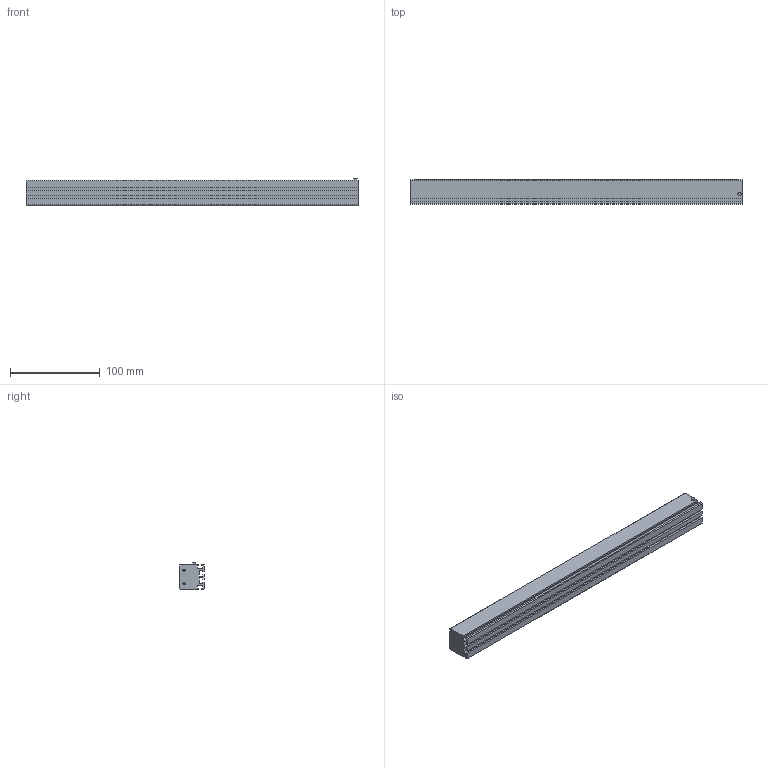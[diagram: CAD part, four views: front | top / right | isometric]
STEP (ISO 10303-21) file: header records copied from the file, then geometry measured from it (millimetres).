
FILE_DESCRIPTION (( 'STEP AP203' ), '1' );
FILE_NAME ('LRD-B4-370.STEP', '2022-08-22T06:50:01', ( 'TNT' ), ( '' ), 'SwSTEP 2.0', 'SolidWorks 2018', '' );
FILE_SCHEMA (( 'CONFIG_CONTROL_DESIGN' ));
Length unit declared in the file: millimetre
Products named in the file (1): LRD-B4-370
Bounding box: 370 x 27.7 x 30.6 mm (x, y, z)
Volume: 242477 mm3; surface area: 67931.4 mm2
Topology: 1 solids, 1 shells, 66 faces, 178 edges, 112 vertices
Faces by surface type: plane 48, cylinder 10, cone 8
Entity records: 2059 total; most frequent: CARTESIAN_POINT 349, ORIENTED_EDGE 340, DIRECTION 324, EDGE_CURVE 170, VECTOR 150, LINE 150, VERTEX_POINT 112, AXIS2_PLACEMENT_3D 87
